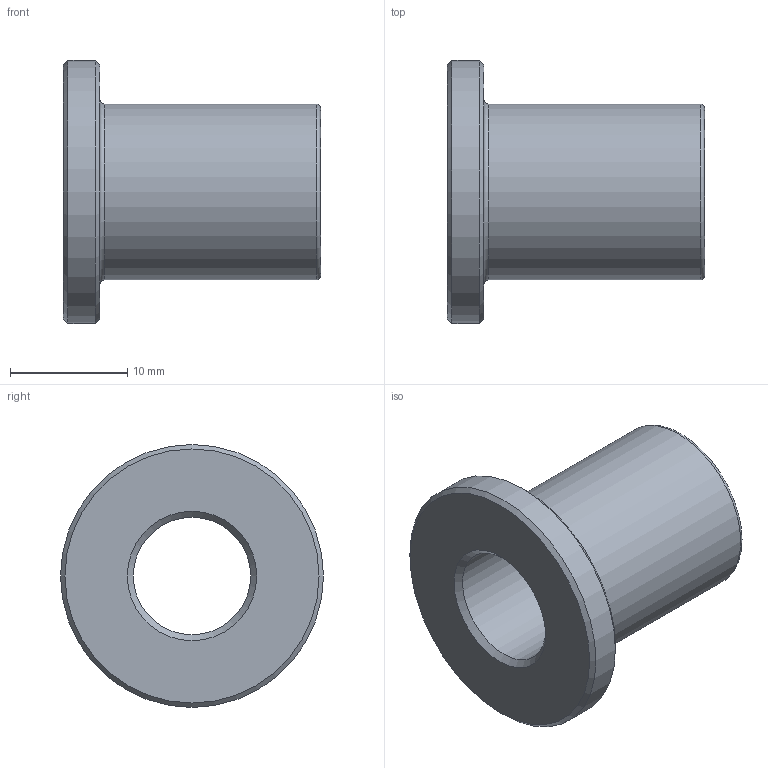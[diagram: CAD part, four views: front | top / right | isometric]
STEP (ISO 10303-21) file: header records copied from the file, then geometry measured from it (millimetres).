
FILE_DESCRIPTION( ( 'STEP AP214' ), '1' );
FILE_NAME( 'p:/temp/worker_43/temp/app_58_02019012316301978955092192d056f_000000_00_00_000000/format_0/M4PWBC.stp', '2019-01-23T15:30:50', ( '' ), ( '' ), ' ', 'PARTsolutions', ' ' );
FILE_SCHEMA( ( 'AUTOMOTIVE_DESIGN { 1 0 10303 214 1 1 1 1 }' ) );
Length unit declared in the file: inch
Products named in the file (1): _M4PWBC
Bounding box: 21.9 x 22.4 x 22.4 mm (x, y, z)
Volume: 2801.2 mm3; surface area: 2356.9 mm2
Topology: 1 solids, 1 shells, 12 faces, 21 edges, 12 vertices
Faces by surface type: cone 4, plane 3, cylinder 3, torus 2
Full cylindrical faces by diameter (mm): 10 x1, 14.99 x1, 22.4 x1
Entity records: 360 total; most frequent: DIRECTION 50, CARTESIAN_POINT 37, AXIS2_PLACEMENT_3D 25, EDGE_LOOP 24, ORIENTED_EDGE 24, FACE_OUTER_BOUND 17, STYLED_ITEM 12, PRESENTATION_STYLE_ASSIGNMENT 12
